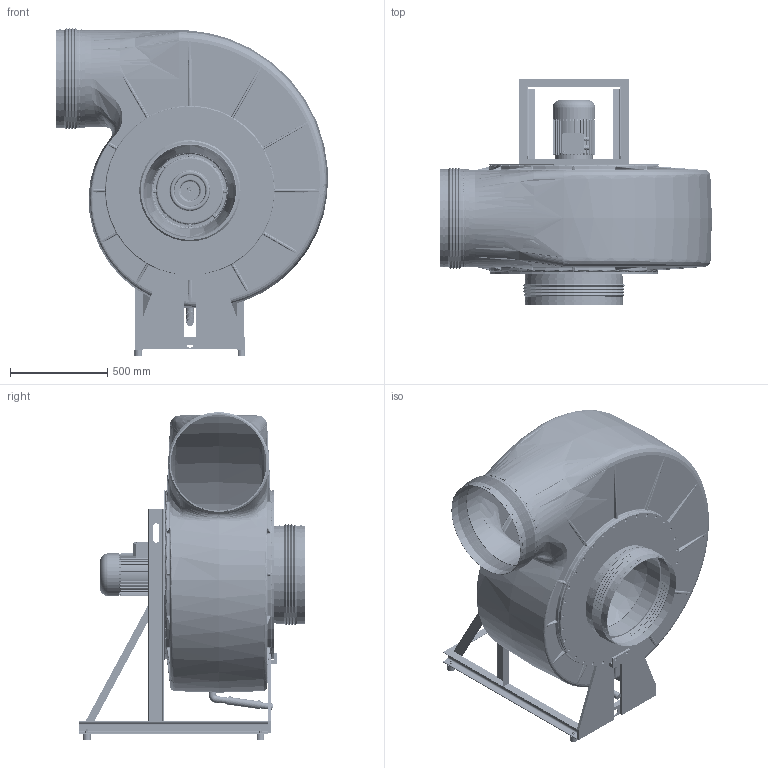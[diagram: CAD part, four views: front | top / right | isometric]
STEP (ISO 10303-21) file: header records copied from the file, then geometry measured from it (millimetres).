
FILE_DESCRIPTION( ( 'Unknown' ), '1' );
FILE_NAME( 'K:/HOME/HLT_CAD/Z/HF/3D/Zusammenstellung/HFR/HFR 15_17/HFR...-15D/DS_1/HFR_500-15D/GR90/HFR_500-15D_DS1_GR_090_112.stp', 'Unknown', ( 'Unknown' ), ( 'Unknown' ), 'PSStep 14.0', 'Unknown', ' ' );
FILE_SCHEMA( ( 'AUTOMOTIVE_DESIGN { 1 0 10303 214 1 1 1 1 }' ) );
Length unit declared in the file: millimetre
Products named in the file (69): 5159_Kondensatablauf_355-500; Stopfen_G1-oa0; Rohr_Ø32; Verschlusskappe_Ø31,8; Schelle; 721100108-Winkel_90°-DN25_d=32; Schlauch_Ø32; 5118_Gestell_HFR500-15D; C-Channel 65x42-oa1; C-Channel 65x42-oa2; Angle 60x30x5-oa3; Angle 40x40x4-oa4; Angle 40x40x4-oa5; Angle 40x40x4-oa6; Angle 80x40x6-oa7; Angle 80x40x6-oa8; Angle 25x4-oa9; 5118_Gehäuseplatte; 5140_Gehäusedeckel; 500; 5140_Rohr; GD_FL 500; 5140_Rohr_400; HFR 500_GR; Gehäuse 500_GR_Abgeschn; Ensat-Buchse-M8; 5003_Man 500; 5003_Manschettenband_Ø500; 5003_4_Schelle_Ø500; Assem1; 5200_Stützplatte_HFR500_90°-180°-360°_DS1; 6611_Motorring_Bg100+112; Schwidä_40x30; 6kant_M8; 5200_Befestigungsklammer_HFR500; B5_112a_2HIHI
Assembly tree (150 placements, depth 3):
  Assem1
    5200_Stützplatte_HFR500_90°-180°-360°_DS1
    5200_Stützplatte_HFR500_90°-180°-360°_DS1
    6611_Motorring_Bg100+112
    Schwidä_40x30  x4
    6kant_M8  x4
    5200_Befestigungsklammer_HFR500
    B5_112a_2HIHI
    HFR 500_GR
      Gehäuse 500_GR_Abgeschn
      Gehäuse 500_GR_Abgeschn
      Gehäuse 500_GR_Abgeschn
      Gehäuse 500_GR_Abgeschn
      Gehäuse 500_GR_Abgeschn
      Gehäuse 500_GR_Abgeschn
      Gehäuse 500_GR_Abgeschn
      Gehäuse 500_GR_Abgeschn
      Gehäuse 500_GR_Abgeschn
      Gehäuse 500_GR_Abgeschn
      Gehäuse 500_GR_Abgeschn
      Gehäuse 500_GR_Abgeschn
      Gehäuse 500_GR_Abgeschn
      Gehäuse 500_GR_Abgeschn
      Gehäuse 500_GR_Abgeschn
      Gehäuse 500_GR_Abgeschn
      Gehäuse 500_GR_Abgeschn
      Gehäuse 500_GR_Abgeschn
      Gehäuse 500_GR_Abgeschn
      Gehäuse 500_GR_Abgeschn
      Gehäuse 500_GR_Abgeschn
      Gehäuse 500_GR_Abgeschn
      Gehäuse 500_GR_Abgeschn
      Gehäuse 500_GR_Abgeschn
      Gehäuse 500_GR_Abgeschn
      Gehäuse 500_GR_Abgeschn
      Gehäuse 500_GR_Abgeschn
      Gehäuse 500_GR_Abgeschn
      Gehäuse 500_GR_Abgeschn
      Gehäuse 500_GR_Abgeschn
      Gehäuse 500_GR_Abgeschn
      Gehäuse 500_GR_Abgeschn
      Gehäuse 500_GR_Abgeschn
      Ensat-Buchse-M8  x72
    5003_Man 500  x2
      5003_Manschettenband_Ø500
      5003_4_Schelle_Ø500
    5159_Kondensatablauf_355-500
      Stopfen_G1-oa0
      Rohr_Ø32  x2
      Verschlusskappe_Ø31,8
      Schelle  x2
      721100108-Winkel_90°-DN25_d=32
      Schlauch_Ø32
    5140_Gehäusedeckel
      500  x2
      5140_Rohr
      GD_FL 500
      5140_Rohr_400
    5118_Gestell_HFR500-15D
      C-Channel 65x42-oa1
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Bounding box: 1397.8 x 1162.06 x 1686.83 mm (x, y, z)
Volume: 31405685.3 mm3; surface area: 15154955.4 mm2
Topology: 146 solids, 147 shells, 3468 faces, 7440 edges, 4714 vertices
Faces by surface type: plane 1485, cylinder 1174, bspline 367, torus 209, cone 145, sphere 46, offset 36, revolution 6
Full cylindrical faces by diameter (mm): 6.647 x80, 8 x8, 8.376 x1, 9 x2, 10 x4, 10.5 x8, 11 x4, 12 x256, 13 x226, 14 x16, 14.5 x8, 15 x36, 16 x12, 17 x64, 22 x1, 23 x1, 24 x4, 25.6 x2, 28 x1, 28.4 x2, 31.8 x1, 32 x5, 33.6 x1, 34.8 x1, 35.244 x1, 36 x1, 38.2 x2, 40 x7, 95 x1, 102 x1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
Entity records: 160464 total; most frequent: CARTESIAN_POINT 82779, DIRECTION 11624, ORIENTED_EDGE 10492, EDGE_CURVE 5246, AXIS2_PLACEMENT_3D 4901, EDGE_LOOP 3698, VERTEX_POINT 3529, FACE_OUTER_BOUND 3157
